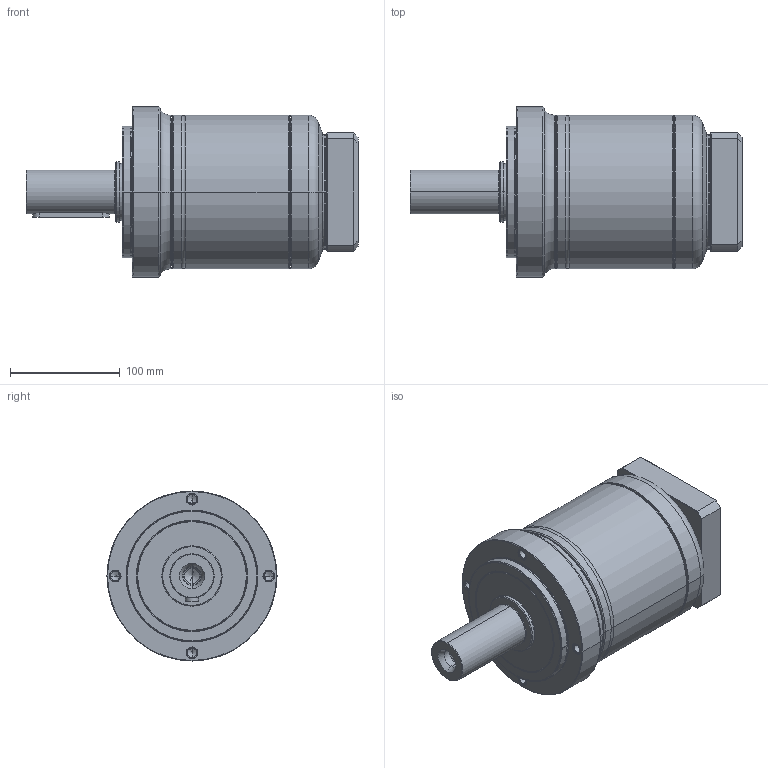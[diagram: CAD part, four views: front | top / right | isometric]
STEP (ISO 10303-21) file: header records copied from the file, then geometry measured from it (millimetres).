
FILE_DESCRIPTION((''),'2;1');
FILE_NAME('PE2-155_2ST_28-P0411600101_ASM','2016-05-03T',('d00435'),(''),'PRO/ENGINEER BY PARAMETRIC TECHNOLOGY CORPORATION, 2008410','PRO/ENGINEER BY PARAMETRIC TECHNOLOGY CORPORATION, 2008410','');
FILE_SCHEMA(('CONFIG_CONTROL_DESIGN'));
Length unit declared in the file: millimetre
Products named in the file (9): P1323510001; P0251500001; P1324500201; P0350501001; P0941502001; P0503600008; P0411600101; P1702500001; PE2-155_2ST_28-P0411600101_ASM
Assembly tree (8 placements, depth 2):
  PE2-155_2ST_28-P0411600101_ASM
    P1323510001
    P0251500001
    P1324500201
    P0350501001
    P0941502001
    P0503600008
    P0411600101
    P1702500001
Bounding box: 302.5 x 155 x 155 mm (x, y, z)
Volume: 2379185.3 mm3; surface area: 350285.2 mm2
Topology: 8 solids, 22 shells, 538 faces, 1199 edges, 706 vertices
Faces by surface type: cylinder 172, cone 148, torus 106, plane 96, bspline 16
Entity records: 19552 total; most frequent: CARTESIAN_POINT 7274, DIRECTION 2835, ORIENTED_EDGE 2270, AXIS2_PLACEMENT_3D 1226, EDGE_CURVE 1163, VERTEX_POINT 706, CIRCLE 677, EDGE_LOOP 619
